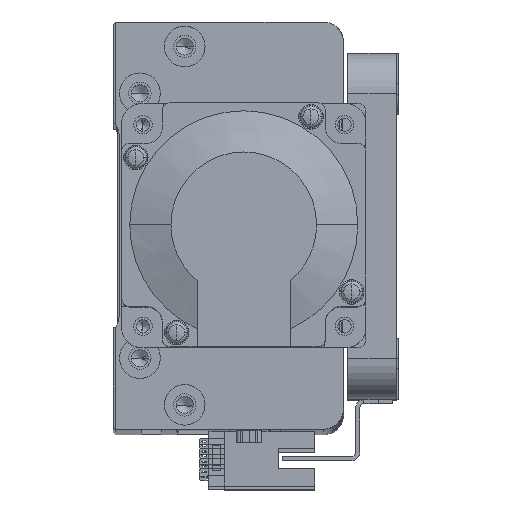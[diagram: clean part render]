
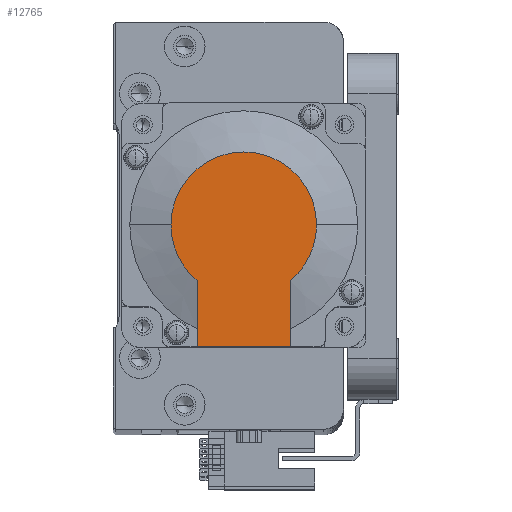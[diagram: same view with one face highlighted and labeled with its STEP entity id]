
A CAD part, top view. The second image highlights one B-rep face of the part: STEP entity #12765.
In plain terms, the highlighted planar face has unit normal (0, 0, 1) as drawn and (-1, 0, 0) by its records, which use the part's own axes.
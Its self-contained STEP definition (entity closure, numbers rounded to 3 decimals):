
#1502 = VECTOR ( 'NONE', #26150, 1000. ) ;
#1717 = LINE ( 'NONE', #9438, #34409 ) ;
#1742 = VERTEX_POINT ( 'NONE', #12702 ) ;
#4757 = VECTOR ( 'NONE', #30611, 1000. ) ;
#4846 = AXIS2_PLACEMENT_3D ( 'NONE', #9250, #39096, #13576 ) ;
#9062 = VERTEX_POINT ( 'NONE', #11826 ) ;
#9250 = CARTESIAN_POINT ( 'NONE',  ( -118.5, 0., 0. ) ) ;
#9438 = CARTESIAN_POINT ( 'NONE',  ( -118.5, 0., 11.45 ) ) ;
#11639 = EDGE_CURVE ( 'NONE', #27088, #50572, #19915, .T. ) ;
#11826 = CARTESIAN_POINT ( 'NONE',  ( -118.5, 13.735, -11.45 ) ) ;
#12702 = CARTESIAN_POINT ( 'NONE',  ( -118.5, 30., 11.45 ) ) ;
#12765 = ADVANCED_FACE ( 'NONE', ( #41360 ), #29804, .T. ) ;
#12828 = LINE ( 'NONE', #51664, #1502 ) ;
#12837 = AXIS2_PLACEMENT_3D ( 'NONE', #42590, #17053, #46875 ) ;
#13178 = CARTESIAN_POINT ( 'NONE',  ( -118.5, -8.941, 0. ) ) ;
#13576 = DIRECTION ( 'NONE',  ( 0., 0., -1. ) ) ;
#13752 = DIRECTION ( 'NONE',  ( 0., -1., 0. ) ) ;
#14629 = ORIENTED_EDGE ( 'NONE', *, *, #52586, .T. ) ;
#16452 = DIRECTION ( 'NONE',  ( -1., 0., 0. ) ) ;
#17053 = DIRECTION ( 'NONE',  ( -1., 0., 0. ) ) ;
#17451 = DIRECTION ( 'NONE',  ( 0., 0., 1. ) ) ;
#17477 = CIRCLE ( 'NONE', #52022, 17.881 ) ;
#19915 = CIRCLE ( 'NONE', #12837, 17.881 ) ;
#20193 = ORIENTED_EDGE ( 'NONE', *, *, #28680, .T. ) ;
#21287 = EDGE_CURVE ( 'NONE', #34081, #1742, #12828, .T. ) ;
#23157 = ORIENTED_EDGE ( 'NONE', *, *, #21287, .F. ) ;
#26150 = DIRECTION ( 'NONE',  ( 0., 0., 1. ) ) ;
#27088 = VERTEX_POINT ( 'NONE', #52909 ) ;
#27437 = EDGE_CURVE ( 'NONE', #1742, #28994, #1717, .T. ) ;
#28413 = ORIENTED_EDGE ( 'NONE', *, *, #27437, .F. ) ;
#28450 = EDGE_CURVE ( 'NONE', #9062, #27088, #17477, .T. ) ;
#28680 = EDGE_CURVE ( 'NONE', #34081, #9062, #37448, .T. ) ;
#28994 = VERTEX_POINT ( 'NONE', #45676 ) ;
#29804 = PLANE ( 'NONE',  #30079 ) ;
#30079 = AXIS2_PLACEMENT_3D ( 'NONE', #13178, #43011, #17451 ) ;
#30611 = DIRECTION ( 'NONE',  ( 0., -1., 0. ) ) ;
#32292 = ORIENTED_EDGE ( 'NONE', *, *, #28450, .T. ) ;
#33350 = CIRCLE ( 'NONE', #4846, 17.881 ) ;
#34081 = VERTEX_POINT ( 'NONE', #48556 ) ;
#34409 = VECTOR ( 'NONE', #13752, 1000. ) ;
#35436 = ORIENTED_EDGE ( 'NONE', *, *, #11639, .T. ) ;
#36741 = CARTESIAN_POINT ( 'NONE',  ( -118.5, 0., 17.881 ) ) ;
#37448 = LINE ( 'NONE', #52009, #4757 ) ;
#39096 = DIRECTION ( 'NONE',  ( -1., 0., 0. ) ) ;
#41360 = FACE_OUTER_BOUND ( 'NONE', #45989, .T. ) ;
#41998 = CARTESIAN_POINT ( 'NONE',  ( -118.5, 0., 0. ) ) ;
#42590 = CARTESIAN_POINT ( 'NONE',  ( -118.5, 0., 0. ) ) ;
#43011 = DIRECTION ( 'NONE',  ( -1., 0., 0. ) ) ;
#45676 = CARTESIAN_POINT ( 'NONE',  ( -118.5, 13.735, 11.45 ) ) ;
#45989 = EDGE_LOOP ( 'NONE', ( #20193, #32292, #35436, #14629, #28413, #23157 ) ) ;
#46279 = DIRECTION ( 'NONE',  ( 0., 0., -1. ) ) ;
#46875 = DIRECTION ( 'NONE',  ( 0., 0., -1. ) ) ;
#48556 = CARTESIAN_POINT ( 'NONE',  ( -118.5, 30., -11.45 ) ) ;
#50572 = VERTEX_POINT ( 'NONE', #36741 ) ;
#51664 = CARTESIAN_POINT ( 'NONE',  ( -118.5, 30., 25. ) ) ;
#52009 = CARTESIAN_POINT ( 'NONE',  ( -118.5, -8.941, -11.45 ) ) ;
#52022 = AXIS2_PLACEMENT_3D ( 'NONE', #41998, #16452, #46279 ) ;
#52586 = EDGE_CURVE ( 'NONE', #50572, #28994, #33350, .T. ) ;
#52909 = CARTESIAN_POINT ( 'NONE',  ( -118.5, 0., -17.881 ) ) ;
